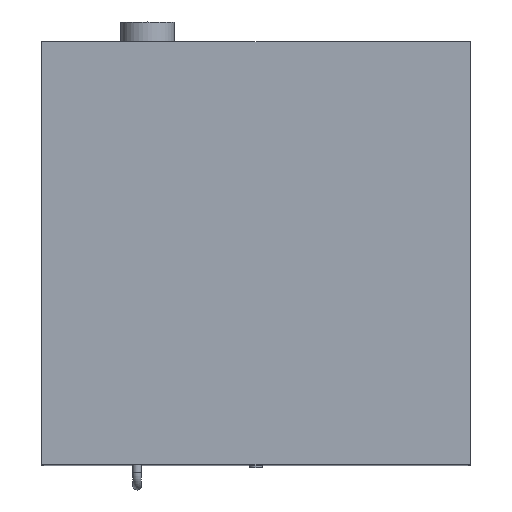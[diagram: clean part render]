
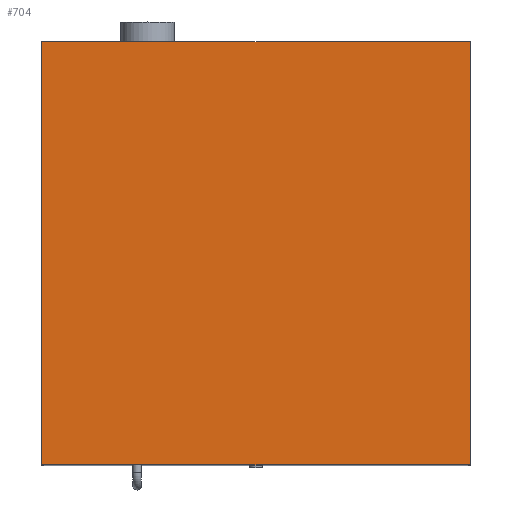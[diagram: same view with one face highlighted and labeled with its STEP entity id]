
A CAD part, top view. The second image highlights one B-rep face of the part: STEP entity #704.
In plain terms, the highlighted planar face has unit normal (0, 0, 1).
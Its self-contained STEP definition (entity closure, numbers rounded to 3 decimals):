
#42=LINE('',#949,#90);
#44=LINE('',#953,#92);
#45=LINE('',#955,#93);
#46=LINE('',#957,#94);
#90=VECTOR('',#811,1000.);
#92=VECTOR('',#815,1000.);
#93=VECTOR('',#816,1000.);
#94=VECTOR('',#817,1000.);
#151=ORIENTED_EDGE('',*,*,#262,.T.);
#152=ORIENTED_EDGE('',*,*,#263,.T.);
#153=ORIENTED_EDGE('',*,*,#264,.T.);
#154=ORIENTED_EDGE('',*,*,#260,.T.);
#260=EDGE_CURVE('',#317,#316,#42,.T.);
#262=EDGE_CURVE('',#316,#318,#44,.T.);
#263=EDGE_CURVE('',#318,#319,#45,.T.);
#264=EDGE_CURVE('',#319,#317,#46,.T.);
#316=VERTEX_POINT('',#948);
#317=VERTEX_POINT('',#950);
#318=VERTEX_POINT('',#954);
#319=VERTEX_POINT('',#956);
#369=EDGE_LOOP('',(#151,#152,#153,#154));
#415=FACE_BOUND('',#369,.T.);
#459=PLANE('',#742);
#704=ADVANCED_FACE('',(#415),#459,.T.);
#742=AXIS2_PLACEMENT_3D('',#952,#813,#814);
#811=DIRECTION('',(1.,0.,0.));
#813=DIRECTION('',(0.,0.,1.));
#814=DIRECTION('',(1.,0.,0.));
#815=DIRECTION('',(0.,1.,0.));
#816=DIRECTION('',(-1.,0.,0.));
#817=DIRECTION('',(0.,-1.,0.));
#948=CARTESIAN_POINT('',(601.,0.,770.));
#949=CARTESIAN_POINT('',(0.,0.,770.));
#950=CARTESIAN_POINT('',(0.,0.,770.));
#952=CARTESIAN_POINT('',(0.,0.,770.));
#953=CARTESIAN_POINT('',(601.,0.,770.));
#954=CARTESIAN_POINT('',(601.,594.,770.));
#955=CARTESIAN_POINT('',(601.,594.,770.));
#956=CARTESIAN_POINT('',(0.,594.,770.));
#957=CARTESIAN_POINT('',(0.,493.,770.));
